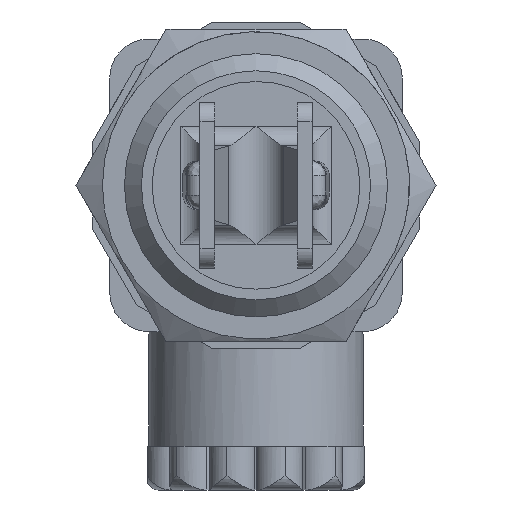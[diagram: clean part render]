
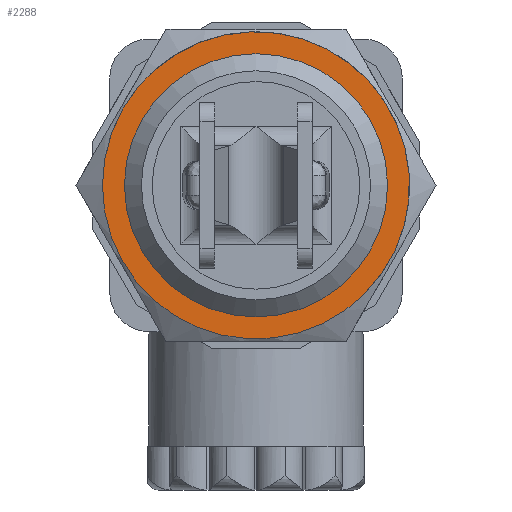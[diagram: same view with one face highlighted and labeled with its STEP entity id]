
A CAD part, front view. The second image highlights one B-rep face of the part: STEP entity #2288.
In plain terms, the highlighted planar face has unit normal (0, -1, 0).
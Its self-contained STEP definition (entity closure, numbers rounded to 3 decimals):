
#2288=ADVANCED_FACE('',(#8092,#8094),#8096,.T.);
#8092=FACE_BOUND('',#8093,.T.);
#8093=EDGE_LOOP('',(#16640,#16641));
#8094=FACE_BOUND('',#8095,.T.);
#8095=EDGE_LOOP('',(#16642));
#8096=PLANE('',#8097);
#8097=AXIS2_PLACEMENT_3D('',#8098,#8099,#8100);
#8098=CARTESIAN_POINT('',(0.,-12.,0.));
#8099=DIRECTION('',(0.,-1.,0.));
#8100=DIRECTION('',(-1.,0.,0.));
#16640=ORIENTED_EDGE('',*,*,#21754,.F.);
#16641=ORIENTED_EDGE('',*,*,#21755,.F.);
#16642=ORIENTED_EDGE('',*,*,#21832,.T.);
#21754=EDGE_CURVE('',#25725,#25726,#25727,.T.);
#21755=EDGE_CURVE('',#25726,#25725,#25728,.T.);
#21832=EDGE_CURVE('',#25833,#25833,#25834,.T.);
#25725=VERTEX_POINT('',#32720);
#25726=VERTEX_POINT('',#32721);
#25727=CIRCLE('',#32722,15.75);
#25728=CIRCLE('',#32726,15.75);
#25833=VERTEX_POINT('',#33002);
#25834=CIRCLE('',#33003,11.75);
#32720=CARTESIAN_POINT('',(11.137,-12.,-11.137));
#32721=CARTESIAN_POINT('',(-15.75,-12.,0.));
#32722=AXIS2_PLACEMENT_3D('',#32723,#32724,#32725);
#32723=CARTESIAN_POINT('',(0.,-12.,0.));
#32724=DIRECTION('',(0.,1.,0.));
#32725=DIRECTION('',(0.707,0.,-0.707));
#32726=AXIS2_PLACEMENT_3D('',#32727,#32728,#32729);
#32727=CARTESIAN_POINT('',(0.,-12.,0.));
#32728=DIRECTION('',(0.,1.,0.));
#32729=DIRECTION('',(-1.,0.,0.));
#33002=CARTESIAN_POINT('',(-11.75,-12.,0.));
#33003=AXIS2_PLACEMENT_3D('',#33004,#33005,#33006);
#33004=CARTESIAN_POINT('',(0.,-12.,0.));
#33005=DIRECTION('',(0.,1.,0.));
#33006=DIRECTION('',(-1.,0.,0.));
